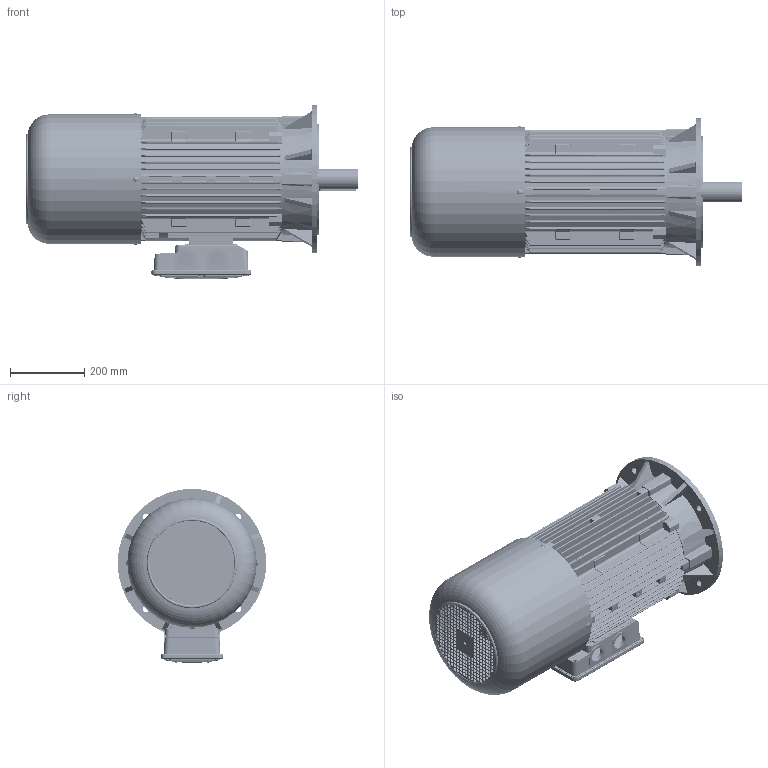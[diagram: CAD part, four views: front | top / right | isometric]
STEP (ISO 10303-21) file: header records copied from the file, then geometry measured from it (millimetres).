
FILE_DESCRIPTION (( 'STEP AP214' ), '1' );
FILE_NAME ('M14NB0011.STEP', '2019-10-14T09:25:57', ( '' ), ( '' ), 'SwSTEP 2.0', 'SolidWorks 2018', '' );
FILE_SCHEMA (( 'AUTOMOTIVE_DESIGN' ));
Length unit declared in the file: millimetre
Products named in the file (15): Carcassa 180-200 B5; M14NB0011; Vite a Brugola M10x75; Vite testa rotonda M6; Cuffia BM 180-200; Scudo Lato Freno P1 BM 180-200 - D7CL0005; Scatola Morsettiera Doppia BA 160 - 180 - 200 - Completa; Guarnizione Basetta BA 160-180 - 200 - D6BB0000; Vite Testa Bombata M6x20; Guarnizione Coperchio Sc. Mor. BA 160-180-200 - D6BA0100; Coperchio Scatola Morsettiera Doppia BA 160 - 180 - 200 - D6A60099; Scatola Morsettiera Doppia BA 160 - 180 - 200 - D6A70299; Chiavetta 200-225 2p; Albero BM 200 L; Scudo a Flangia B5 BA 200 Fi 400 - D7AV0299
Assembly tree (25 placements, depth 3):
  M14NB0011
    Carcassa 180-200 B5
    Scudo a Flangia B5 BA 200 Fi 400 - D7AV0299
    Albero BM 200 L
    Chiavetta 200-225 2p
    Scatola Morsettiera Doppia BA 160 - 180 - 200 - Completa
      Scatola Morsettiera Doppia BA 160 - 180 - 200 - D6A70299
      Coperchio Scatola Morsettiera Doppia BA 160 - 180 - 200 - D6A60099
      Guarnizione Coperchio Sc. Mor. BA 160-180-200 - D6BA0100
      Vite Testa Bombata M6x20  x6
      Guarnizione Basetta BA 160-180 - 200 - D6BB0000
    Scudo Lato Freno P1 BM 180-200 - D7CL0005
    Cuffia BM 180-200
    Vite testa rotonda M6  x4
    Vite a Brugola M10x75  x4
Bounding box: 892.99 x 400 x 469.49 mm (x, y, z)
Volume: 15262793.9 mm3; surface area: 3509863.4 mm2
Topology: 24 solids, 24 shells, 4874 faces, 13456 edges, 8528 vertices
Faces by surface type: plane 2086, cylinder 1662, bspline 402, torus 395, cone 171, sphere 158
Entity records: 157672 total; most frequent: CARTESIAN_POINT 54734, ORIENTED_EDGE 22136, DIRECTION 19875, EDGE_CURVE 11068, VERTEX_POINT 7045, AXIS2_PLACEMENT_3D 6734, VECTOR 6407, LINE 6407
